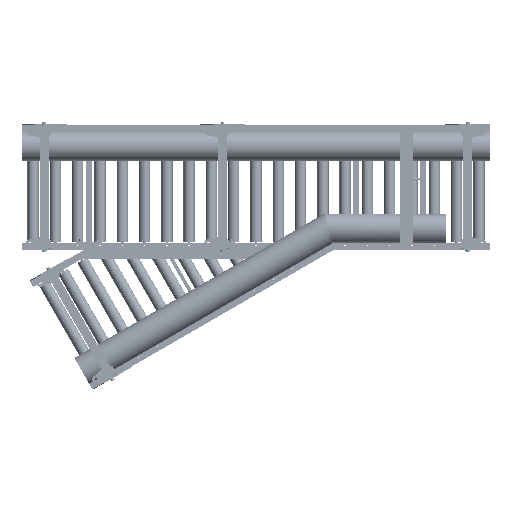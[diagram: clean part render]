
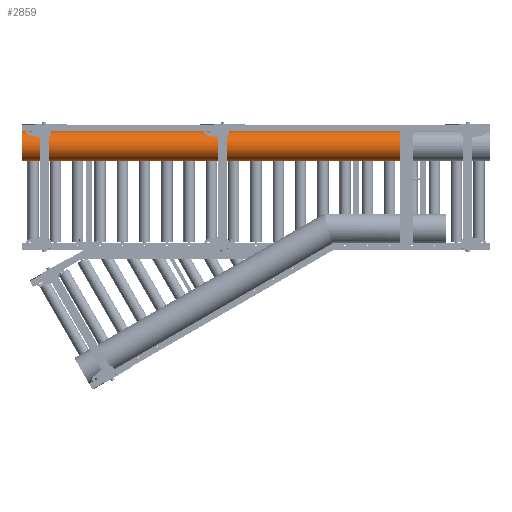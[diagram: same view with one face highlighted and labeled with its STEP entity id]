
A CAD part, front view. The second image highlights one B-rep face of the part: STEP entity #2859.
In plain terms, the highlighted cylindrical face has radius 66.89 mm (diameter 133.78 mm), a partial arc.
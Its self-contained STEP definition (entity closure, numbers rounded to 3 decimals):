
#2859=ADVANCED_FACE('',(#12580),#12579,.T.);
#12579=CYLINDRICAL_SURFACE('',#51459,66.89);
#12580=FACE_OUTER_BOUND('',#51460,.T.);
#51456=CARTESIAN_POINT('',(-2277.652,-150.,185.11));
#51457=DIRECTION('',(-1.,0.,0.));
#51458=DIRECTION('',(0.,0.,1.));
#51459=AXIS2_PLACEMENT_3D('',#51456,#51457,#51458);
#51460=EDGE_LOOP('',(#73751,#73752,#73753,#73754));
#73751=ORIENTED_EDGE('',*,*,#93516,.T.);
#73752=ORIENTED_EDGE('',*,*,#93517,.T.);
#73753=ORIENTED_EDGE('',*,*,#93514,.F.);
#73754=ORIENTED_EDGE('',*,*,#92475,.F.);
#92475=EDGE_CURVE('',#109302,#109309,#109310,.T.);
#93514=EDGE_CURVE('',#109309,#116182,#116183,.T.);
#93516=EDGE_CURVE('',#109302,#116195,#116196,.T.);
#93517=EDGE_CURVE('',#116195,#116182,#116202,.T.);
#109302=VERTEX_POINT('',#178713);
#109309=VERTEX_POINT('',#178717);
#109310=CIRCLE('',#178721,66.89);
#116182=VERTEX_POINT('',#182619);
#116183=LINE('',#182620,#182621);
#116195=VERTEX_POINT('',#182626);
#116196=LINE('',#182627,#182628);
#116202=CIRCLE('',#182633,66.89);
#178713=CARTESIAN_POINT('',(-2100.,-150.,118.22));
#178717=CARTESIAN_POINT('',(-2100.,-150.,252.));
#178718=CARTESIAN_POINT('',(-2100.,-150.,185.11));
#178719=DIRECTION('',(-1.,0.,0.));
#178720=DIRECTION('',(0.,0.,1.));
#178721=AXIS2_PLACEMENT_3D('',#178718,#178719,#178720);
#182619=CARTESIAN_POINT('',(-402.5,-150.,252.));
#182620=CARTESIAN_POINT('',(-2100.,-150.,252.));
#182621=VECTOR('',#182622,1697.5);
#182622=DIRECTION('',(1.,0.,0.));
#182626=CARTESIAN_POINT('',(-402.5,-150.,118.22));
#182627=CARTESIAN_POINT('',(-2100.,-150.,118.22));
#182628=VECTOR('',#182629,1697.5);
#182629=DIRECTION('',(1.,0.,0.));
#182630=CARTESIAN_POINT('',(-402.5,-150.,185.11));
#182631=DIRECTION('',(-1.,0.,0.));
#182632=DIRECTION('',(0.,0.,1.));
#182633=AXIS2_PLACEMENT_3D('',#182630,#182631,#182632);
